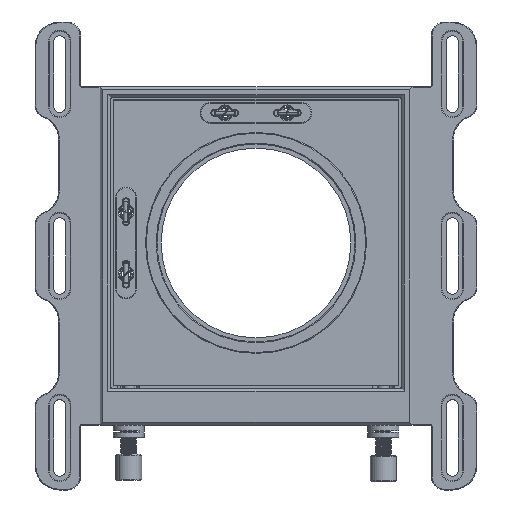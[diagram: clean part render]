
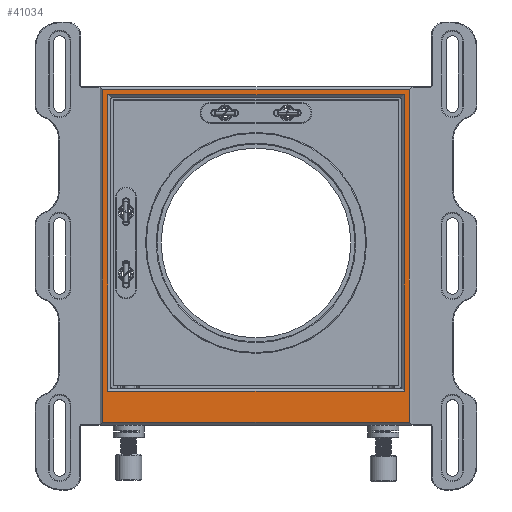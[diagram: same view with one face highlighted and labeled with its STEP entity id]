
A CAD part, top view. The second image highlights one B-rep face of the part: STEP entity #41034.
In plain terms, the highlighted planar face has unit normal (0, 0, 1).
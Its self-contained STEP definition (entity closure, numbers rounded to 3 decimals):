
#376 = VERTEX_POINT ( 'NONE', #16817 ) ;
#587 = DIRECTION ( 'NONE',  ( 1., 0., 0. ) ) ;
#716 = VERTEX_POINT ( 'NONE', #29954 ) ;
#752 = EDGE_CURVE ( 'NONE', #716, #376, #38122, .T. ) ;
#1079 = VECTOR ( 'NONE', #10232, 1000. ) ;
#1318 = VECTOR ( 'NONE', #46370, 1000. ) ;
#2795 = EDGE_CURVE ( 'NONE', #46079, #36119, #4348, .T. ) ;
#2852 = CARTESIAN_POINT ( 'NONE',  ( -60., 64., 15. ) ) ;
#3104 = VECTOR ( 'NONE', #8156, 1000. ) ;
#3418 = CARTESIAN_POINT ( 'NONE',  ( 59., 64., 15. ) ) ;
#4025 = ORIENTED_EDGE ( 'NONE', *, *, #33539, .T. ) ;
#4348 = LINE ( 'NONE', #45125, #39404 ) ;
#4434 = CARTESIAN_POINT ( 'NONE',  ( 60., -64., 15. ) ) ;
#4971 = VECTOR ( 'NONE', #44350, 1000. ) ;
#7662 = LINE ( 'NONE', #11985, #4971 ) ;
#8156 = DIRECTION ( 'NONE',  ( 0., -1., 0. ) ) ;
#8778 = EDGE_LOOP ( 'NONE', ( #46675, #16608, #30848, #4025 ) ) ;
#10232 = DIRECTION ( 'NONE',  ( 0., 1., 0. ) ) ;
#11985 = CARTESIAN_POINT ( 'NONE',  ( 56., 62., 15. ) ) ;
#12000 = CARTESIAN_POINT ( 'NONE',  ( -59., -65., 15. ) ) ;
#12046 = VERTEX_POINT ( 'NONE', #18195 ) ;
#12263 = CARTESIAN_POINT ( 'NONE',  ( 0., 0., 15. ) ) ;
#12435 = ORIENTED_EDGE ( 'NONE', *, *, #20458, .T. ) ;
#13136 = EDGE_CURVE ( 'NONE', #36119, #41793, #24581, .T. ) ;
#13233 = EDGE_CURVE ( 'NONE', #376, #12046, #29604, .T. ) ;
#14531 = CARTESIAN_POINT ( 'NONE',  ( -57., 61., 15. ) ) ;
#16259 = ORIENTED_EDGE ( 'NONE', *, *, #2795, .T. ) ;
#16608 = ORIENTED_EDGE ( 'NONE', *, *, #13233, .T. ) ;
#16817 = CARTESIAN_POINT ( 'NONE',  ( -59., -64., 15. ) ) ;
#18195 = CARTESIAN_POINT ( 'NONE',  ( 59., -64., 15. ) ) ;
#18269 = VECTOR ( 'NONE', #29126, 1000. ) ;
#18560 = LINE ( 'NONE', #43073, #1079 ) ;
#20458 = EDGE_CURVE ( 'NONE', #25380, #46079, #37985, .T. ) ;
#21085 = DIRECTION ( 'NONE',  ( -1., 0., 0. ) ) ;
#21279 = EDGE_CURVE ( 'NONE', #41793, #25380, #7662, .T. ) ;
#21797 = VECTOR ( 'NONE', #587, 1000. ) ;
#21883 = EDGE_LOOP ( 'NONE', ( #39960, #34926, #12435, #16259 ) ) ;
#23430 = CARTESIAN_POINT ( 'NONE',  ( -57., 62., 15. ) ) ;
#24581 = LINE ( 'NONE', #14531, #18269 ) ;
#25380 = VERTEX_POINT ( 'NONE', #47307 ) ;
#29126 = DIRECTION ( 'NONE',  ( 0., 1., 0. ) ) ;
#29604 = LINE ( 'NONE', #4434, #21797 ) ;
#29954 = CARTESIAN_POINT ( 'NONE',  ( -59., 64., 15. ) ) ;
#30454 = DIRECTION ( 'NONE',  ( 0., 0., 1. ) ) ;
#30848 = ORIENTED_EDGE ( 'NONE', *, *, #46309, .T. ) ;
#31013 = CARTESIAN_POINT ( 'NONE',  ( 57., -51., 15. ) ) ;
#33539 = EDGE_CURVE ( 'NONE', #35977, #716, #39099, .T. ) ;
#33570 = VECTOR ( 'NONE', #21085, 1000. ) ;
#34758 = DIRECTION ( 'NONE',  ( 1., 0., 0. ) ) ;
#34926 = ORIENTED_EDGE ( 'NONE', *, *, #21279, .T. ) ;
#35977 = VERTEX_POINT ( 'NONE', #3418 ) ;
#36119 = VERTEX_POINT ( 'NONE', #40825 ) ;
#37903 = FACE_OUTER_BOUND ( 'NONE', #8778, .T. ) ;
#37985 = LINE ( 'NONE', #31013, #1318 ) ;
#38122 = LINE ( 'NONE', #12000, #3104 ) ;
#38382 = PLANE ( 'NONE',  #39595 ) ;
#39099 = LINE ( 'NONE', #2852, #33570 ) ;
#39404 = VECTOR ( 'NONE', #41518, 1000. ) ;
#39595 = AXIS2_PLACEMENT_3D ( 'NONE', #12263, #30454, #34758 ) ;
#39960 = ORIENTED_EDGE ( 'NONE', *, *, #13136, .T. ) ;
#40825 = CARTESIAN_POINT ( 'NONE',  ( -57., -52., 15. ) ) ;
#41034 = ADVANCED_FACE ( 'NONE', ( #42297, #37903 ), #38382, .T. ) ;
#41518 = DIRECTION ( 'NONE',  ( -1., 0., 0. ) ) ;
#41793 = VERTEX_POINT ( 'NONE', #23430 ) ;
#42297 = FACE_BOUND ( 'NONE', #21883, .T. ) ;
#43073 = CARTESIAN_POINT ( 'NONE',  ( 59., 65., 15. ) ) ;
#44350 = DIRECTION ( 'NONE',  ( 1., 0., 0. ) ) ;
#45125 = CARTESIAN_POINT ( 'NONE',  ( -56., -52., 15. ) ) ;
#46079 = VERTEX_POINT ( 'NONE', #46460 ) ;
#46309 = EDGE_CURVE ( 'NONE', #12046, #35977, #18560, .T. ) ;
#46370 = DIRECTION ( 'NONE',  ( 0., -1., 0. ) ) ;
#46460 = CARTESIAN_POINT ( 'NONE',  ( 57., -52., 15. ) ) ;
#46675 = ORIENTED_EDGE ( 'NONE', *, *, #752, .T. ) ;
#47307 = CARTESIAN_POINT ( 'NONE',  ( 57., 62., 15. ) ) ;
